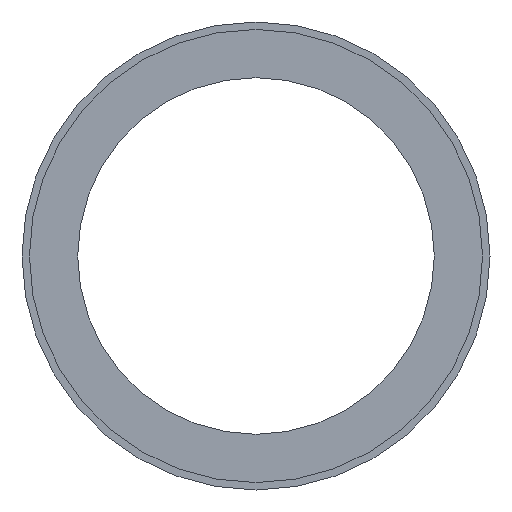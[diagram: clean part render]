
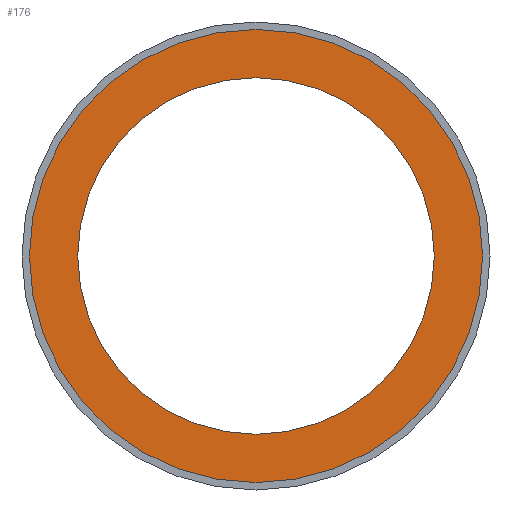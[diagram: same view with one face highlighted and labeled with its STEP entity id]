
A CAD part, front view. The second image highlights one B-rep face of the part: STEP entity #176.
In plain terms, the highlighted planar face has unit normal (0, -1, 0).
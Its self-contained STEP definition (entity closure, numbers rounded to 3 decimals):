
#23 = ORIENTED_EDGE ( 'NONE', *, *, #185, .T. ) ;
#142 = CIRCLE ( 'NONE', #3356, 152.5 ) ;
#176 = ADVANCED_FACE ( 'NONE', ( #1775, #6242 ), #3634, .F. ) ;
#185 = EDGE_CURVE ( 'NONE', #5519, #1502, #1682, .T. ) ;
#355 = EDGE_CURVE ( 'NONE', #6467, #2931, #6363, .T. ) ;
#385 = AXIS2_PLACEMENT_3D ( 'NONE', #3057, #2519, #1535 ) ;
#471 = DIRECTION ( 'NONE',  ( 0., -1., 0. ) ) ;
#1182 = DIRECTION ( 'NONE',  ( 0., -1., 0. ) ) ;
#1319 = EDGE_CURVE ( 'NONE', #2931, #6467, #4290, .T. ) ;
#1502 = VERTEX_POINT ( 'NONE', #5255 ) ;
#1535 = DIRECTION ( 'NONE',  ( 0., 0., -1. ) ) ;
#1682 = CIRCLE ( 'NONE', #5656, 152.5 ) ;
#1684 = AXIS2_PLACEMENT_3D ( 'NONE', #6049, #4515, #2983 ) ;
#1775 = FACE_BOUND ( 'NONE', #2087, .T. ) ;
#2087 = EDGE_LOOP ( 'NONE', ( #5736, #2853 ) ) ;
#2095 = AXIS2_PLACEMENT_3D ( 'NONE', #4072, #5140, #5607 ) ;
#2148 = DIRECTION ( 'NONE',  ( 0., 0., -1. ) ) ;
#2263 = CARTESIAN_POINT ( 'NONE',  ( 0., -37.5, -120. ) ) ;
#2519 = DIRECTION ( 'NONE',  ( 0., -1., 0. ) ) ;
#2559 = CARTESIAN_POINT ( 'NONE',  ( 0., -37.5, 0. ) ) ;
#2588 = EDGE_CURVE ( 'NONE', #1502, #5519, #142, .T. ) ;
#2680 = ORIENTED_EDGE ( 'NONE', *, *, #2588, .T. ) ;
#2853 = ORIENTED_EDGE ( 'NONE', *, *, #1319, .F. ) ;
#2931 = VERTEX_POINT ( 'NONE', #3586 ) ;
#2983 = DIRECTION ( 'NONE',  ( 0., 0., -1. ) ) ;
#3057 = CARTESIAN_POINT ( 'NONE',  ( 0., -37.5, 0. ) ) ;
#3356 = AXIS2_PLACEMENT_3D ( 'NONE', #4282, #1182, #2148 ) ;
#3586 = CARTESIAN_POINT ( 'NONE',  ( 0., -37.5, 120. ) ) ;
#3634 = PLANE ( 'NONE',  #2095 ) ;
#4072 = CARTESIAN_POINT ( 'NONE',  ( 0., -37.5, 120. ) ) ;
#4282 = CARTESIAN_POINT ( 'NONE',  ( 0., -37.5, 0. ) ) ;
#4290 = CIRCLE ( 'NONE', #385, 120. ) ;
#4515 = DIRECTION ( 'NONE',  ( 0., -1., 0. ) ) ;
#4709 = EDGE_LOOP ( 'NONE', ( #23, #2680 ) ) ;
#5140 = DIRECTION ( 'NONE',  ( 0., 1., 0. ) ) ;
#5255 = CARTESIAN_POINT ( 'NONE',  ( 0., -37.5, 152.5 ) ) ;
#5519 = VERTEX_POINT ( 'NONE', #6268 ) ;
#5588 = DIRECTION ( 'NONE',  ( 0., 0., -1. ) ) ;
#5607 = DIRECTION ( 'NONE',  ( 0., 0., 1. ) ) ;
#5656 = AXIS2_PLACEMENT_3D ( 'NONE', #2559, #471, #5588 ) ;
#5736 = ORIENTED_EDGE ( 'NONE', *, *, #355, .F. ) ;
#6049 = CARTESIAN_POINT ( 'NONE',  ( 0., -37.5, 0. ) ) ;
#6242 = FACE_OUTER_BOUND ( 'NONE', #4709, .T. ) ;
#6268 = CARTESIAN_POINT ( 'NONE',  ( 0., -37.5, -152.5 ) ) ;
#6363 = CIRCLE ( 'NONE', #1684, 120. ) ;
#6467 = VERTEX_POINT ( 'NONE', #2263 ) ;
